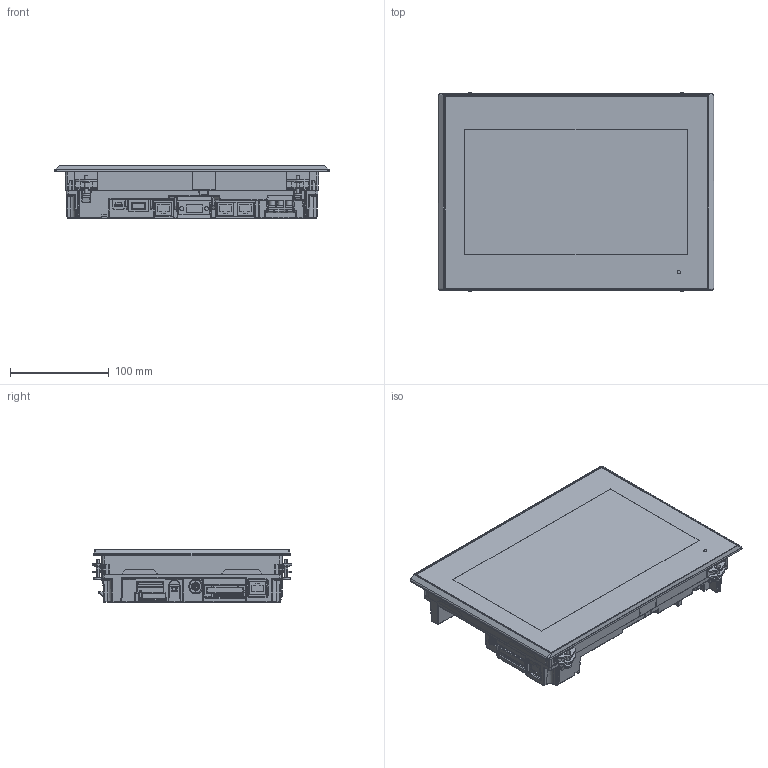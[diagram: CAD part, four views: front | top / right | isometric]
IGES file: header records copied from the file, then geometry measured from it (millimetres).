
Start section:  PTC IGES file: v9100iwrld_3d-data.igs
Global section: file name: v9100iwrld_3d-data.igs; native system: Pro/ENGINEER by Parametric Technology Corporation; preprocessor: 2011330; author: oda; organization: Unknown; date: 20141110.154406; units: millimetre
Bounding box: 278.5 x 201.4 x 53.2 mm (x, y, z)
Surface area: 173548.5 mm2 (no closed solid volume)
Topology: 0 solids, 0 shells, 2150 faces, 11242 edges, 11236 vertices
Faces by surface type: bspline 1446, revolution 691, extrusion 13
